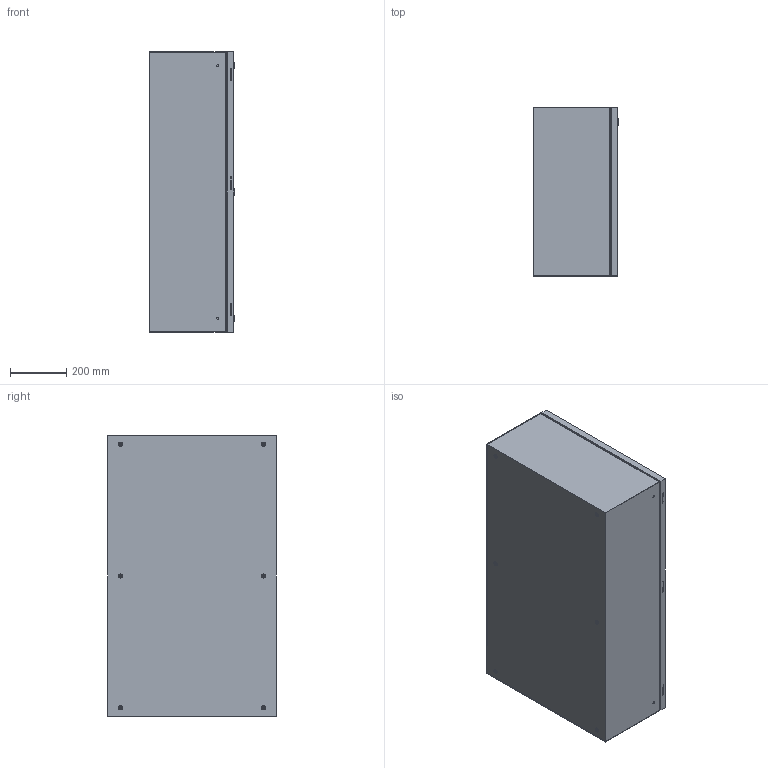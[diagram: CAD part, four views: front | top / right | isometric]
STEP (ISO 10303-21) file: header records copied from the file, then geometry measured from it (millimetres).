
FILE_DESCRIPTION(/* description */ ('Unknown'),/* implementation_level */ '2;1');
FILE_NAME(/* name */ 'CCA06010030',/* time_stamp */ '2024-08-01T14:16:11+02:00',/* author */ ('Unknown'),/* organization */ ('Unknown'),/* preprocessor_version */ 'ST-DEVELOPER v19.4',/* originating_system */ 'Solid Edge',/* authorisation */ 'Unknown');
FILE_SCHEMA (('AUTOMOTIVE_DESIGN {1 0 10303 214 3 1 1}'));
Length unit declared in the file: millimetre
Products named in the file (16): CCA06010030; C000X002.45_oa_0; C000X002.46_oa_1; C0000002.11; C0000000.02; AE00989.09; AE00198.02; AE00417.01; C000X002.44_oa_2; C0000002.10; C0000000.04; C0000000.05; AE00316.01; AE00601.01; AE00891.02; C0000000.01
Assembly tree (47 placements, depth 4):
  CCA06010030
    C000X002.45_oa_0
      C000X002.46_oa_1
        C0000002.11
      C0000000.02  x3
      AE00989.09  x3
      AE00198.02  x3
      AE00417.01  x2
    AE00198.02  x3
    C000X002.44_oa_2
      C0000002.10
      C0000000.04  x6
      C0000000.05  x6
      AE00316.01  x3
      AE00601.01  x3
      AE00891.02  x3
      C0000000.01  x3
      AE00417.01  x4
Bounding box: 305 x 600 x 1000 mm (x, y, z)
Volume: 4250692.8 mm3; surface area: 4464101.9 mm2
Topology: 47 solids, 47 shells, 947 faces, 2313 edges, 1504 vertices
Faces by surface type: plane 613, cylinder 235, cone 51, torus 48
Full cylindrical faces by diameter (mm): 4 x3, 4.917 x9, 4.918 x3, 5.4 x3, 6 x18, 6.4 x3, 7.5 x6, 8 x6, 8.376 x12, 10 x9, 10.25 x6, 10.5 x6, 11 x3, 13.6 x3, 14 x6, 15 x6, 16 x6, 16.3 x3, 19.5 x3, 28 x3
Entity records: 11952 total; most frequent: CARTESIAN_POINT 1843, DIRECTION 1776, ORIENTED_EDGE 1620, EDGE_CURVE 810, AXIS2_PLACEMENT_3D 598, LINE 580, VECTOR 580, VERTEX_POINT 556
